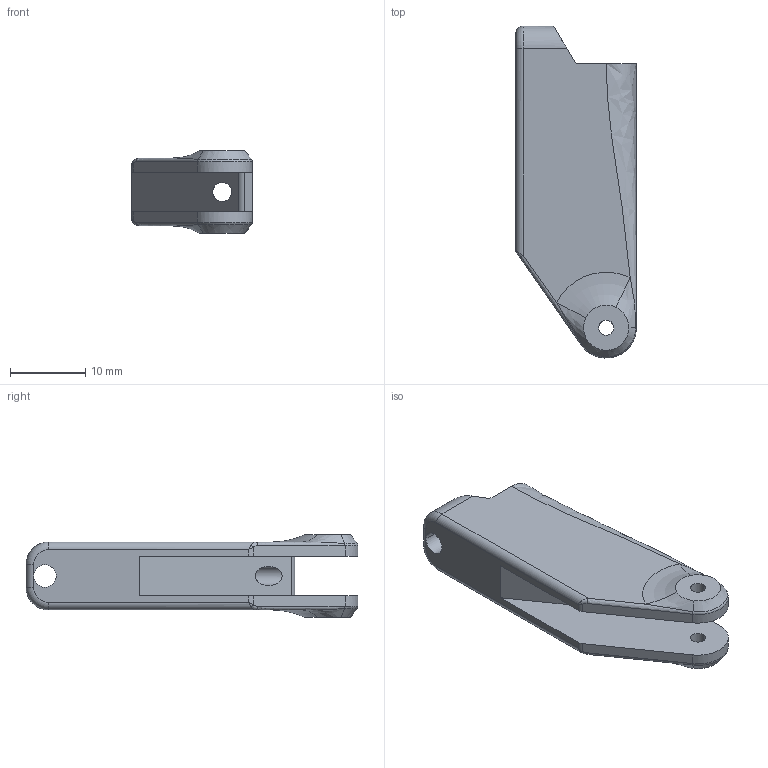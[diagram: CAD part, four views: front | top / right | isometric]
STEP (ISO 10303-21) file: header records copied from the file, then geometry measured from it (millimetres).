
FILE_DESCRIPTION (( 'STEP AP214' ), '1' );
FILE_NAME ('TrainAtterissageMarlin_1.STEP', '2026-01-03T15:19:07', ( '' ), ( '' ), 'SwSTEP 2.0', 'SolidWorks 2010', '' );
FILE_SCHEMA (( 'AUTOMOTIVE_DESIGN' ));
Length unit declared in the file: millimetre
Products named in the file (1): TrainAtterissageMarlin_1
Bounding box: 16 x 44 x 11 mm (x, y, z)
Volume: 3919.2 mm3; surface area: 2623 mm2
Topology: 1 solids, 1 shells, 53 faces, 134 edges, 80 vertices
Faces by surface type: cylinder 18, bspline 16, plane 15, torus 4
Entity records: 3021 total; most frequent: CARTESIAN_POINT 1845, ORIENTED_EDGE 264, DIRECTION 204, EDGE_CURVE 132, VERTEX_POINT 80, AXIS2_PLACEMENT_3D 78, EDGE_LOOP 60, ADVANCED_FACE 53
